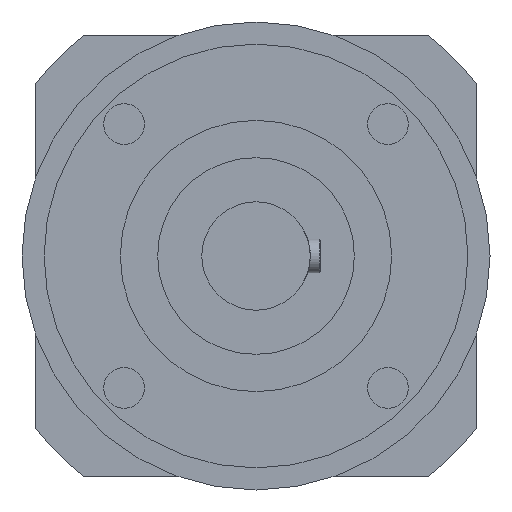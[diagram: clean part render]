
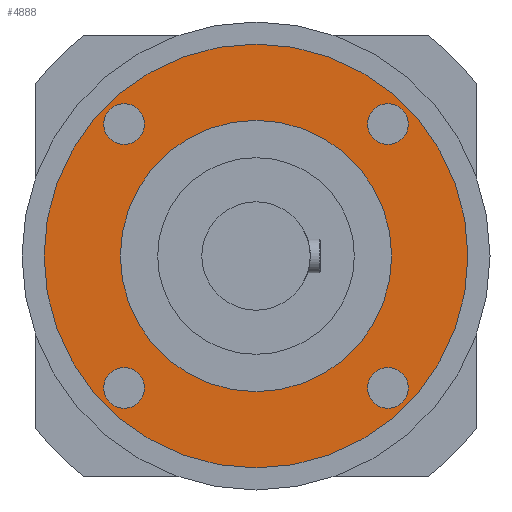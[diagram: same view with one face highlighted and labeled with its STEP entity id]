
A CAD part, left-side view. The second image highlights one B-rep face of the part: STEP entity #4888.
In plain terms, the highlighted planar face has unit normal (-1, 0, 0).
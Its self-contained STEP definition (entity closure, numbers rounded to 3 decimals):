
#22 = CARTESIAN_POINT ( 'NONE',  ( -126., 0., 0. ) ) ;
#39 = DIRECTION ( 'NONE',  ( 0., 0., 1. ) ) ;
#190 = CARTESIAN_POINT ( 'NONE',  ( -126., 0., 0. ) ) ;
#214 = DIRECTION ( 'NONE',  ( 1., 0., 0. ) ) ;
#227 = CARTESIAN_POINT ( 'NONE',  ( -126., -38.891, 32.891 ) ) ;
#302 = DIRECTION ( 'NONE',  ( 1., 0., 0. ) ) ;
#310 = DIRECTION ( 'NONE',  ( 0., 0., -1. ) ) ;
#358 = AXIS2_PLACEMENT_3D ( 'NONE', #2496, #1230, #4205 ) ;
#398 = CIRCLE ( 'NONE', #358, 6. ) ;
#428 = ORIENTED_EDGE ( 'NONE', *, *, #4648, .T. ) ;
#511 = PLANE ( 'NONE',  #2860 ) ;
#583 = DIRECTION ( 'NONE',  ( 1., 0., 0. ) ) ;
#593 = AXIS2_PLACEMENT_3D ( 'NONE', #190, #214, #3212 ) ;
#601 = CARTESIAN_POINT ( 'NONE',  ( -126., 38.891, -38.891 ) ) ;
#658 = FACE_BOUND ( 'NONE', #2513, .T. ) ;
#694 = CARTESIAN_POINT ( 'NONE',  ( -126., 38.891, -44.891 ) ) ;
#788 = FACE_OUTER_BOUND ( 'NONE', #972, .T. ) ;
#791 = DIRECTION ( 'NONE',  ( 1., 0., 0. ) ) ;
#850 = ORIENTED_EDGE ( 'NONE', *, *, #2030, .T. ) ;
#879 = CIRCLE ( 'NONE', #593, 62.5 ) ;
#938 = DIRECTION ( 'NONE',  ( -1., 0., 0. ) ) ;
#972 = EDGE_LOOP ( 'NONE', ( #4022, #1291 ) ) ;
#974 = DIRECTION ( 'NONE',  ( 0., 0., -1. ) ) ;
#977 = VERTEX_POINT ( 'NONE', #3670 ) ;
#991 = VERTEX_POINT ( 'NONE', #227 ) ;
#1008 = VERTEX_POINT ( 'NONE', #694 ) ;
#1015 = VERTEX_POINT ( 'NONE', #3685 ) ;
#1022 = CIRCLE ( 'NONE', #1245, 6. ) ;
#1128 = CARTESIAN_POINT ( 'NONE',  ( -126., -38.891, -38.891 ) ) ;
#1230 = DIRECTION ( 'NONE',  ( 1., 0., 0. ) ) ;
#1245 = AXIS2_PLACEMENT_3D ( 'NONE', #4163, #4901, #310 ) ;
#1272 = CIRCLE ( 'NONE', #5213, 62.5 ) ;
#1279 = CIRCLE ( 'NONE', #3138, 40. ) ;
#1291 = ORIENTED_EDGE ( 'NONE', *, *, #1861, .F. ) ;
#1392 = EDGE_CURVE ( 'NONE', #1460, #977, #1022, .T. ) ;
#1413 = DIRECTION ( 'NONE',  ( 0., 0., -1. ) ) ;
#1423 = ORIENTED_EDGE ( 'NONE', *, *, #2609, .T. ) ;
#1460 = VERTEX_POINT ( 'NONE', #2854 ) ;
#1465 = DIRECTION ( 'NONE',  ( 0., 0., -1. ) ) ;
#1582 = CARTESIAN_POINT ( 'NONE',  ( -126., 0., -40. ) ) ;
#1586 = ORIENTED_EDGE ( 'NONE', *, *, #5220, .T. ) ;
#1632 = DIRECTION ( 'NONE',  ( 0., 0., 1. ) ) ;
#1665 = CARTESIAN_POINT ( 'NONE',  ( -126., 0., 62.5 ) ) ;
#1754 = DIRECTION ( 'NONE',  ( 0., 0., 1. ) ) ;
#1787 = CARTESIAN_POINT ( 'NONE',  ( -126., 38.891, -38.891 ) ) ;
#1804 = CARTESIAN_POINT ( 'NONE',  ( -126., 38.891, 38.891 ) ) ;
#1855 = CARTESIAN_POINT ( 'NONE',  ( -126., 38.891, 38.891 ) ) ;
#1861 = EDGE_CURVE ( 'NONE', #5269, #3436, #879, .T. ) ;
#1962 = DIRECTION ( 'NONE',  ( 1., 0., 0. ) ) ;
#2013 = CARTESIAN_POINT ( 'NONE',  ( -126., 38.891, 44.891 ) ) ;
#2014 = AXIS2_PLACEMENT_3D ( 'NONE', #1804, #4746, #2199 ) ;
#2023 = CARTESIAN_POINT ( 'NONE',  ( -126., 0., 40. ) ) ;
#2030 = EDGE_CURVE ( 'NONE', #1008, #3158, #5260, .T. ) ;
#2065 = ORIENTED_EDGE ( 'NONE', *, *, #1392, .T. ) ;
#2080 = FACE_BOUND ( 'NONE', #4875, .T. ) ;
#2093 = CARTESIAN_POINT ( 'NONE',  ( -126., 0., 0. ) ) ;
#2199 = DIRECTION ( 'NONE',  ( 0., 0., -1. ) ) ;
#2201 = DIRECTION ( 'NONE',  ( 1., 0., 0. ) ) ;
#2303 = CARTESIAN_POINT ( 'NONE',  ( -126., -38.891, 44.891 ) ) ;
#2365 = AXIS2_PLACEMENT_3D ( 'NONE', #1787, #2201, #1413 ) ;
#2496 = CARTESIAN_POINT ( 'NONE',  ( -126., -38.891, 38.891 ) ) ;
#2513 = EDGE_LOOP ( 'NONE', ( #3340, #2778 ) ) ;
#2543 = ORIENTED_EDGE ( 'NONE', *, *, #4179, .T. ) ;
#2571 = EDGE_LOOP ( 'NONE', ( #850, #2543 ) ) ;
#2585 = AXIS2_PLACEMENT_3D ( 'NONE', #1128, #3689, #5317 ) ;
#2609 = EDGE_CURVE ( 'NONE', #1015, #2897, #5383, .T. ) ;
#2778 = ORIENTED_EDGE ( 'NONE', *, *, #2887, .T. ) ;
#2799 = DIRECTION ( 'NONE',  ( 0., 0., -1. ) ) ;
#2825 = AXIS2_PLACEMENT_3D ( 'NONE', #4117, #302, #1632 ) ;
#2854 = CARTESIAN_POINT ( 'NONE',  ( -126., -38.891, -44.891 ) ) ;
#2860 = AXIS2_PLACEMENT_3D ( 'NONE', #4705, #938, #1754 ) ;
#2887 = EDGE_CURVE ( 'NONE', #5210, #3783, #3671, .T. ) ;
#2897 = VERTEX_POINT ( 'NONE', #2013 ) ;
#3138 = AXIS2_PLACEMENT_3D ( 'NONE', #22, #4270, #39 ) ;
#3158 = VERTEX_POINT ( 'NONE', #3847 ) ;
#3199 = CIRCLE ( 'NONE', #4027, 6. ) ;
#3212 = DIRECTION ( 'NONE',  ( 0., 0., 1. ) ) ;
#3283 = CARTESIAN_POINT ( 'NONE',  ( -126., -38.891, 38.891 ) ) ;
#3329 = FACE_BOUND ( 'NONE', #2571, .T. ) ;
#3337 = CARTESIAN_POINT ( 'NONE',  ( -126., 0., -62.5 ) ) ;
#3340 = ORIENTED_EDGE ( 'NONE', *, *, #3528, .T. ) ;
#3405 = ORIENTED_EDGE ( 'NONE', *, *, #5120, .T. ) ;
#3436 = VERTEX_POINT ( 'NONE', #1665 ) ;
#3511 = CIRCLE ( 'NONE', #2014, 6. ) ;
#3518 = CIRCLE ( 'NONE', #3705, 6. ) ;
#3528 = EDGE_CURVE ( 'NONE', #3783, #5210, #1279, .T. ) ;
#3624 = EDGE_LOOP ( 'NONE', ( #2065, #3405 ) ) ;
#3670 = CARTESIAN_POINT ( 'NONE',  ( -126., -38.891, -32.891 ) ) ;
#3671 = CIRCLE ( 'NONE', #2825, 40. ) ;
#3685 = CARTESIAN_POINT ( 'NONE',  ( -126., 38.891, 32.891 ) ) ;
#3689 = DIRECTION ( 'NONE',  ( 1., 0., 0. ) ) ;
#3705 = AXIS2_PLACEMENT_3D ( 'NONE', #3283, #1962, #2799 ) ;
#3783 = VERTEX_POINT ( 'NONE', #2023 ) ;
#3838 = DIRECTION ( 'NONE',  ( 0., 0., 1. ) ) ;
#3847 = CARTESIAN_POINT ( 'NONE',  ( -126., 38.891, -32.891 ) ) ;
#3912 = FACE_BOUND ( 'NONE', #3624, .T. ) ;
#3920 = EDGE_CURVE ( 'NONE', #3436, #5269, #1272, .T. ) ;
#4022 = ORIENTED_EDGE ( 'NONE', *, *, #3920, .F. ) ;
#4027 = AXIS2_PLACEMENT_3D ( 'NONE', #601, #583, #1465 ) ;
#4117 = CARTESIAN_POINT ( 'NONE',  ( -126., 0., 0. ) ) ;
#4163 = CARTESIAN_POINT ( 'NONE',  ( -126., -38.891, -38.891 ) ) ;
#4179 = EDGE_CURVE ( 'NONE', #3158, #1008, #3199, .T. ) ;
#4205 = DIRECTION ( 'NONE',  ( 0., 0., -1. ) ) ;
#4270 = DIRECTION ( 'NONE',  ( 1., 0., 0. ) ) ;
#4289 = ORIENTED_EDGE ( 'NONE', *, *, #4953, .T. ) ;
#4313 = FACE_BOUND ( 'NONE', #4444, .T. ) ;
#4340 = AXIS2_PLACEMENT_3D ( 'NONE', #1855, #5230, #974 ) ;
#4438 = VERTEX_POINT ( 'NONE', #2303 ) ;
#4444 = EDGE_LOOP ( 'NONE', ( #1423, #4289 ) ) ;
#4648 = EDGE_CURVE ( 'NONE', #991, #4438, #398, .T. ) ;
#4705 = CARTESIAN_POINT ( 'NONE',  ( -126., 0., 0. ) ) ;
#4746 = DIRECTION ( 'NONE',  ( 1., 0., 0. ) ) ;
#4875 = EDGE_LOOP ( 'NONE', ( #428, #1586 ) ) ;
#4888 = ADVANCED_FACE ( 'NONE', ( #788, #658, #3329, #3912, #2080, #4313 ), #511, .T. ) ;
#4901 = DIRECTION ( 'NONE',  ( 1., 0., 0. ) ) ;
#4953 = EDGE_CURVE ( 'NONE', #2897, #1015, #3511, .T. ) ;
#5090 = CIRCLE ( 'NONE', #2585, 6. ) ;
#5120 = EDGE_CURVE ( 'NONE', #977, #1460, #5090, .T. ) ;
#5210 = VERTEX_POINT ( 'NONE', #1582 ) ;
#5213 = AXIS2_PLACEMENT_3D ( 'NONE', #2093, #791, #3838 ) ;
#5220 = EDGE_CURVE ( 'NONE', #4438, #991, #3518, .T. ) ;
#5230 = DIRECTION ( 'NONE',  ( 1., 0., 0. ) ) ;
#5260 = CIRCLE ( 'NONE', #2365, 6. ) ;
#5269 = VERTEX_POINT ( 'NONE', #3337 ) ;
#5317 = DIRECTION ( 'NONE',  ( 0., 0., -1. ) ) ;
#5383 = CIRCLE ( 'NONE', #4340, 6. ) ;
